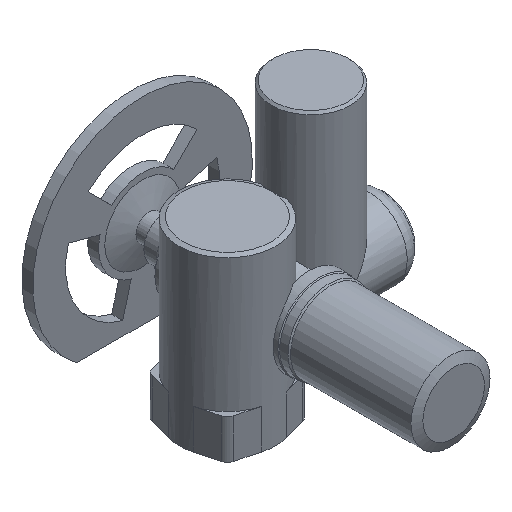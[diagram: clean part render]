
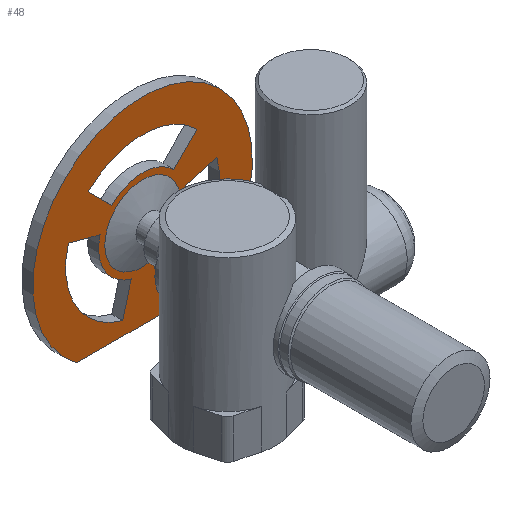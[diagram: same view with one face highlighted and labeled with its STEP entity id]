
A CAD part, isometric view. The second image highlights one B-rep face of the part: STEP entity #48.
In plain terms, the highlighted planar face has unit normal (0, -1, 0).
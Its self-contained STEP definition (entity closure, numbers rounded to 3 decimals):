
#48=ADVANCED_FACE('',(#732,#734,#736,#738,#740),#742,.T.);
#732=FACE_BOUND('',#733,.T.);
#733=EDGE_LOOP('',(#1338,#1339));
#734=FACE_BOUND('',#735,.T.);
#735=EDGE_LOOP('',(#1340,#1341,#1342,#1343));
#736=FACE_BOUND('',#737,.T.);
#737=EDGE_LOOP('',(#1344,#1345,#1346,#1347));
#738=FACE_BOUND('',#739,.T.);
#739=EDGE_LOOP('',(#1348));
#740=FACE_BOUND('',#741,.T.);
#741=EDGE_LOOP('',(#1349,#1350,#1351,#1352));
#742=PLANE('',#743);
#743=AXIS2_PLACEMENT_3D('',#744,#745,#746);
#744=CARTESIAN_POINT('',(0.,283.,0.));
#745=DIRECTION('',(0.,-1.,0.));
#746=DIRECTION('',(0.,0.,1.));
#1338=ORIENTED_EDGE('',*,*,#1674,.T.);
#1339=ORIENTED_EDGE('',*,*,#1675,.F.);
#1340=ORIENTED_EDGE('',*,*,#1676,.T.);
#1341=ORIENTED_EDGE('',*,*,#1677,.T.);
#1342=ORIENTED_EDGE('',*,*,#1678,.T.);
#1343=ORIENTED_EDGE('',*,*,#1679,.T.);
#1344=ORIENTED_EDGE('',*,*,#1680,.T.);
#1345=ORIENTED_EDGE('',*,*,#1681,.T.);
#1346=ORIENTED_EDGE('',*,*,#1682,.T.);
#1347=ORIENTED_EDGE('',*,*,#1683,.T.);
#1348=ORIENTED_EDGE('',*,*,#1684,.T.);
#1349=ORIENTED_EDGE('',*,*,#1685,.T.);
#1350=ORIENTED_EDGE('',*,*,#1686,.T.);
#1351=ORIENTED_EDGE('',*,*,#1687,.T.);
#1352=ORIENTED_EDGE('',*,*,#1688,.T.);
#1674=EDGE_CURVE('',#1842,#1843,#1844,.F.);
#1675=EDGE_CURVE('',#1842,#1843,#1845,.T.);
#1676=EDGE_CURVE('',#1846,#1847,#1848,.T.);
#1677=EDGE_CURVE('',#1847,#1849,#1850,.F.);
#1678=EDGE_CURVE('',#1849,#1851,#1852,.T.);
#1679=EDGE_CURVE('',#1851,#1846,#1853,.F.);
#1680=EDGE_CURVE('',#1854,#1855,#1856,.T.);
#1681=EDGE_CURVE('',#1855,#1857,#1858,.F.);
#1682=EDGE_CURVE('',#1857,#1859,#1860,.T.);
#1683=EDGE_CURVE('',#1859,#1854,#1861,.F.);
#1684=EDGE_CURVE('',#1862,#1862,#1863,.T.);
#1685=EDGE_CURVE('',#1864,#1865,#1866,.T.);
#1686=EDGE_CURVE('',#1865,#1867,#1868,.F.);
#1687=EDGE_CURVE('',#1867,#1869,#1870,.T.);
#1688=EDGE_CURVE('',#1869,#1864,#1871,.F.);
#1842=VERTEX_POINT('',#2135);
#1843=VERTEX_POINT('',#2136);
#1844=LINE('',#2137,#2138);
#1845=CIRCLE('',#2140,250.);
#1846=VERTEX_POINT('',#2144);
#1847=VERTEX_POINT('',#2145);
#1848=CIRCLE('',#2146,175.);
#1849=VERTEX_POINT('',#2150);
#1850=LINE('',#2151,#2152);
#1851=VERTEX_POINT('',#2154);
#1852=CIRCLE('',#2155,100.);
#1853=LINE('',#2159,#2160);
#1854=VERTEX_POINT('',#2162);
#1855=VERTEX_POINT('',#2163);
#1856=CIRCLE('',#2164,175.);
#1857=VERTEX_POINT('',#2168);
#1858=LINE('',#2169,#2170);
#1859=VERTEX_POINT('',#2172);
#1860=CIRCLE('',#2173,100.);
#1861=LINE('',#2177,#2178);
#1862=VERTEX_POINT('',#2180);
#1863=CIRCLE('',#2181,85.981);
#1864=VERTEX_POINT('',#2185);
#1865=VERTEX_POINT('',#2186);
#1866=CIRCLE('',#2187,175.);
#1867=VERTEX_POINT('',#2191);
#1868=LINE('',#2192,#2193);
#1869=VERTEX_POINT('',#2195);
#1870=CIRCLE('',#2196,100.);
#1871=LINE('',#2200,#2201);
#2135=CARTESIAN_POINT('',(-150.,283.,-200.));
#2136=CARTESIAN_POINT('',(150.,283.,-200.));
#2137=CARTESIAN_POINT('',(150.,283.,-200.));
#2138=VECTOR('',#2139,1.);
#2139=DIRECTION('',(-1.,0.,0.));
#2140=AXIS2_PLACEMENT_3D('',#2141,#2142,#2143);
#2141=CARTESIAN_POINT('',(0.,283.,0.));
#2142=DIRECTION('',(0.,1.,0.));
#2143=DIRECTION('',(-0.6,0.,-0.8));
#2144=CARTESIAN_POINT('',(169.037,283.,45.293));
#2145=CARTESIAN_POINT('',(45.293,283.,-169.037));
#2146=AXIS2_PLACEMENT_3D('',#2147,#2148,#2149);
#2147=CARTESIAN_POINT('',(0.,283.,0.));
#2148=DIRECTION('',(0.,1.,0.));
#2149=DIRECTION('',(0.966,0.,0.259));
#2150=CARTESIAN_POINT('',(25.882,283.,-96.593));
#2151=CARTESIAN_POINT('',(25.882,283.,-96.593));
#2152=VECTOR('',#2153,1.);
#2153=DIRECTION('',(0.259,0.,-0.966));
#2154=CARTESIAN_POINT('',(96.593,283.,25.882));
#2155=AXIS2_PLACEMENT_3D('',#2156,#2157,#2158);
#2156=CARTESIAN_POINT('',(0.,283.,0.));
#2157=DIRECTION('',(0.,-1.,0.));
#2158=DIRECTION('',(0.259,0.,-0.966));
#2159=CARTESIAN_POINT('',(169.037,283.,45.293));
#2160=VECTOR('',#2161,1.);
#2161=DIRECTION('',(-0.966,0.,-0.259));
#2162=CARTESIAN_POINT('',(-45.293,283.,-169.037));
#2163=CARTESIAN_POINT('',(-169.037,283.,45.293));
#2164=AXIS2_PLACEMENT_3D('',#2165,#2166,#2167);
#2165=CARTESIAN_POINT('',(0.,283.,0.));
#2166=DIRECTION('',(0.,1.,0.));
#2167=DIRECTION('',(-0.259,0.,-0.966));
#2168=CARTESIAN_POINT('',(-96.593,283.,25.882));
#2169=CARTESIAN_POINT('',(-96.593,283.,25.882));
#2170=VECTOR('',#2171,1.);
#2171=DIRECTION('',(-0.966,0.,0.259));
#2172=CARTESIAN_POINT('',(-25.882,283.,-96.593));
#2173=AXIS2_PLACEMENT_3D('',#2174,#2175,#2176);
#2174=CARTESIAN_POINT('',(0.,283.,0.));
#2175=DIRECTION('',(0.,-1.,0.));
#2176=DIRECTION('',(-0.966,0.,0.259));
#2177=CARTESIAN_POINT('',(-45.293,283.,-169.037));
#2178=VECTOR('',#2179,1.);
#2179=DIRECTION('',(0.259,0.,0.966));
#2180=CARTESIAN_POINT('',(0.,283.,85.981));
#2181=AXIS2_PLACEMENT_3D('',#2182,#2183,#2184);
#2182=CARTESIAN_POINT('',(0.,283.,0.));
#2183=DIRECTION('',(0.,1.,0.));
#2184=DIRECTION('',(0.,0.,1.));
#2185=CARTESIAN_POINT('',(-123.744,283.,123.744));
#2186=CARTESIAN_POINT('',(123.744,283.,123.744));
#2187=AXIS2_PLACEMENT_3D('',#2188,#2189,#2190);
#2188=CARTESIAN_POINT('',(0.,283.,0.));
#2189=DIRECTION('',(0.,1.,0.));
#2190=DIRECTION('',(-0.707,0.,0.707));
#2191=CARTESIAN_POINT('',(70.711,283.,70.711));
#2192=CARTESIAN_POINT('',(70.711,283.,70.711));
#2193=VECTOR('',#2194,1.);
#2194=DIRECTION('',(0.707,0.,0.707));
#2195=CARTESIAN_POINT('',(-70.711,283.,70.711));
#2196=AXIS2_PLACEMENT_3D('',#2197,#2198,#2199);
#2197=CARTESIAN_POINT('',(0.,283.,0.));
#2198=DIRECTION('',(0.,-1.,0.));
#2199=DIRECTION('',(0.707,0.,0.707));
#2200=CARTESIAN_POINT('',(-123.744,283.,123.744));
#2201=VECTOR('',#2202,1.);
#2202=DIRECTION('',(0.707,0.,-0.707));
